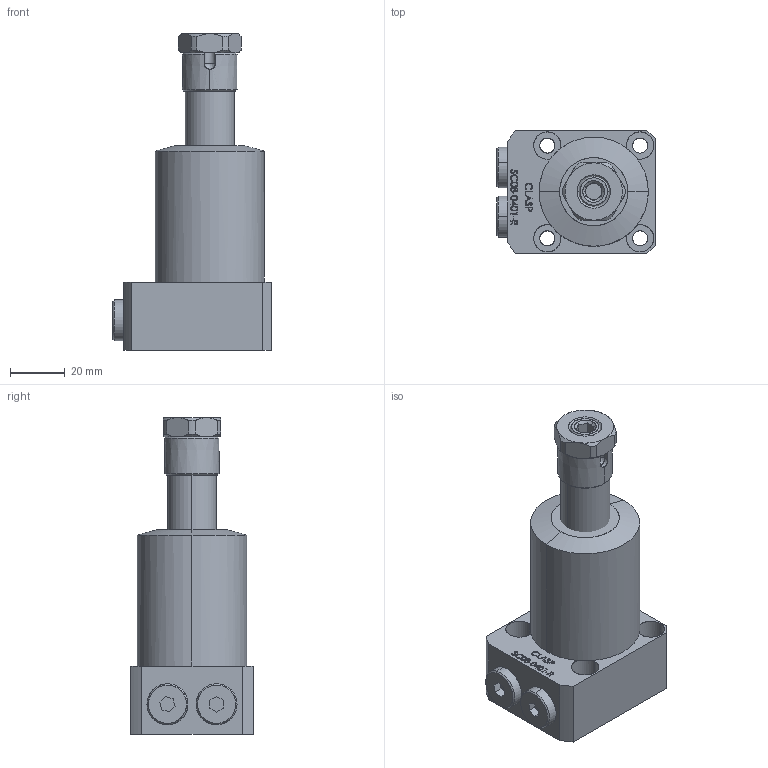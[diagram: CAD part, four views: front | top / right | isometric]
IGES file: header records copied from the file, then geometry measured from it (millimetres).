
Start section: SolidWorks IGES file using analytic representation for surfaces
Global section: file name: D:\karuppas\Clasp\3D model\SWING CYLINDER\bottom mounting swing cylinder\SC08-0401-R\SC08-0401-R.IGS; native system: SolidWorks 2017; preprocessor: SolidWorks 2017; author: pc; date: 220708.224634; units: millimetre
Bounding box: 58 x 45 x 116 mm (x, y, z)
Surface area: 28206.3 mm2 (no closed solid volume)
Topology: 0 solids, 0 shells, 377 faces, 5620 edges, 5619 vertices
Faces by surface type: bspline 272, revolution 105
